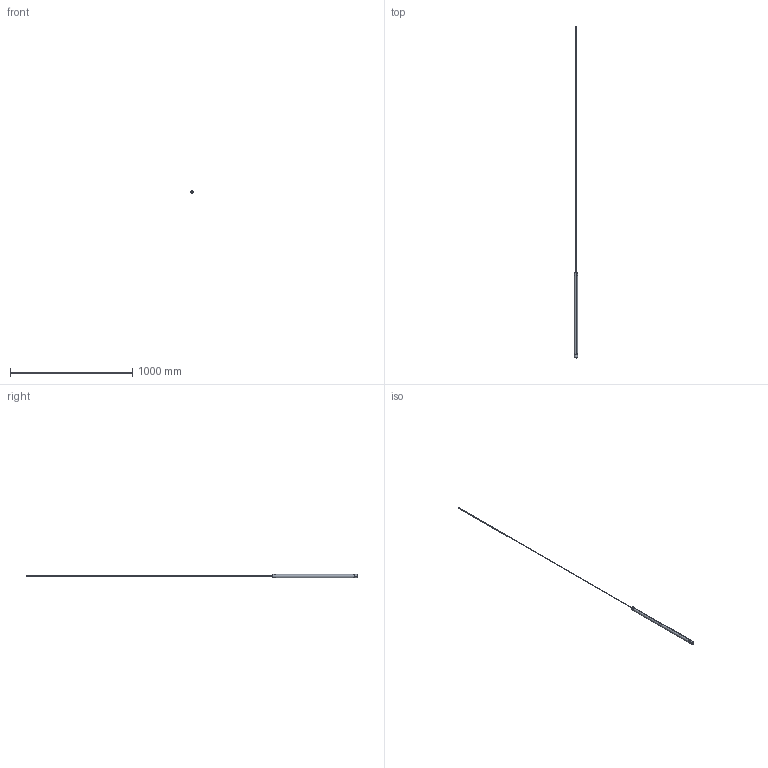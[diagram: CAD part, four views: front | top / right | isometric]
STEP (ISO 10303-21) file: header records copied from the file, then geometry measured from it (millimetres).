
FILE_DESCRIPTION (( 'STEP AP203' ), '1' );
FILE_NAME ('SYVIRXXXXXXXXXX.STEP', '2025-11-14T17:08:06', ( '' ), ( '' ), 'SwSTEP 2.0', 'SolidWorks 2024', '' );
FILE_SCHEMA (( 'CONFIG_CONTROL_DESIGN' ));
Length unit declared in the file: millimetre
Products named in the file (6): UL 20242-P222; WSCM2A0047-0700-00; WSCM2A0050-0700-00_默认; WSCP2F0010-0405-00; WSCM2A0045-0700-00; SYVIRXXXXXXXXXX
Assembly tree (5 placements, depth 2):
  SYVIRXXXXXXXXXX
    WSCM2A0045-0700-00
    WSCM2A0050-0700-00_默认
    UL 20242-P222
    WSCP2F0010-0405-00
    WSCM2A0047-0700-00
Bounding box: 25 x 2710.5 x 25 mm (x, y, z)
Volume: 214949.5 mm3; surface area: 130503.1 mm2
Topology: 5 solids, 5 shells, 80 faces, 166 edges, 106 vertices
Faces by surface type: cylinder 38, plane 28, cone 8, torus 6
Entity records: 2806 total; most frequent: DIRECTION 446, CARTESIAN_POINT 360, ORIENTED_EDGE 332, AXIS2_PLACEMENT_3D 192, EDGE_CURVE 166, VERTEX_POINT 106, CIRCLE 104, EDGE_LOOP 96
